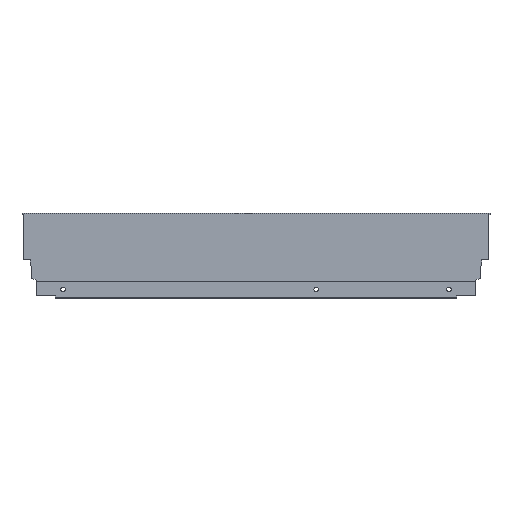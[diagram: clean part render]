
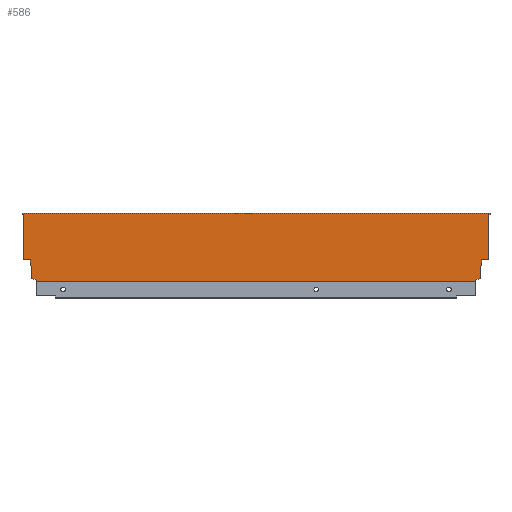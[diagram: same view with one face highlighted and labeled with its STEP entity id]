
A CAD part, top view. The second image highlights one B-rep face of the part: STEP entity #586.
In plain terms, the highlighted planar face has unit normal (0, 0, 1).
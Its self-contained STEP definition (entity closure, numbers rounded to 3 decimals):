
#54 = ORIENTED_EDGE ( 'NONE', *, *, #1593, .T. ) ;
#55 = ORIENTED_EDGE ( 'NONE', *, *, #1594, .T. ) ;
#56 = ORIENTED_EDGE ( 'NONE', *, *, #1583, .F. ) ;
#69 = ORIENTED_EDGE ( 'NONE', *, *, #1581, .F. ) ;
#73 = ORIENTED_EDGE ( 'NONE', *, *, #1595, .F. ) ;
#82 = ORIENTED_EDGE ( 'NONE', *, *, #1588, .F. ) ;
#89 = ORIENTED_EDGE ( 'NONE', *, *, #1599, .F. ) ;
#90 = ORIENTED_EDGE ( 'NONE', *, *, #1592, .F. ) ;
#91 = ORIENTED_EDGE ( 'NONE', *, *, #1476, .F. ) ;
#93 = ORIENTED_EDGE ( 'NONE', *, *, #1587, .F. ) ;
#100 = ORIENTED_EDGE ( 'NONE', *, *, #1586, .F. ) ;
#101 = ORIENTED_EDGE ( 'NONE', *, *, #1591, .F. ) ;
#102 = ORIENTED_EDGE ( 'NONE', *, *, #1590, .F. ) ;
#109 = ORIENTED_EDGE ( 'NONE', *, *, #1585, .F. ) ;
#116 = ORIENTED_EDGE ( 'NONE', *, *, #1582, .F. ) ;
#117 = ORIENTED_EDGE ( 'NONE', *, *, #1584, .F. ) ;
#120 = ORIENTED_EDGE ( 'NONE', *, *, #1589, .F. ) ;
#199 = EDGE_LOOP ( 'NONE', ( #102, #73, #55, #54, #90, #89, #82, #101, #100, #213, #117, #116, #120, #93, #109, #91, #56, #69 ) ) ;
#213 = ORIENTED_EDGE ( 'NONE', *, *, #1596, .T. ) ;
#269 = VECTOR ( 'NONE', #1117, 1000. ) ;
#270 = LINE ( 'NONE', #1116, #269 ) ;
#271 = VECTOR ( 'NONE', #1115, 1000. ) ;
#272 = LINE ( 'NONE', #1114, #271 ) ;
#274 = VECTOR ( 'NONE', #1113, 1000. ) ;
#275 = VECTOR ( 'NONE', #1111, 1000. ) ;
#276 = LINE ( 'NONE', #1110, #275 ) ;
#277 = VECTOR ( 'NONE', #1108, 1000. ) ;
#278 = LINE ( 'NONE', #1107, #277 ) ;
#279 = LINE ( 'NONE', #1123, #305 ) ;
#280 = VECTOR ( 'NONE', #1106, 1000. ) ;
#281 = VECTOR ( 'NONE', #1104, 1000. ) ;
#282 = LINE ( 'NONE', #1103, #281 ) ;
#283 = VECTOR ( 'NONE', #1102, 1000. ) ;
#284 = LINE ( 'NONE', #1101, #283 ) ;
#285 = VECTOR ( 'NONE', #1100, 1000. ) ;
#286 = LINE ( 'NONE', #1099, #285 ) ;
#287 = VECTOR ( 'NONE', #1098, 1000. ) ;
#288 = LINE ( 'NONE', #1097, #287 ) ;
#289 = VECTOR ( 'NONE', #1096, 1000. ) ;
#290 = LINE ( 'NONE', #1095, #289 ) ;
#291 = VECTOR ( 'NONE', #1094, 1000. ) ;
#292 = LINE ( 'NONE', #1093, #291 ) ;
#293 = VECTOR ( 'NONE', #1092, 1000. ) ;
#294 = LINE ( 'NONE', #1091, #293 ) ;
#295 = VECTOR ( 'NONE', #1090, 1000. ) ;
#296 = LINE ( 'NONE', #1089, #295 ) ;
#297 = VECTOR ( 'NONE', #1088, 1000. ) ;
#298 = LINE ( 'NONE', #1087, #297 ) ;
#299 = VECTOR ( 'NONE', #1086, 1000. ) ;
#300 = LINE ( 'NONE', #1085, #299 ) ;
#305 = VECTOR ( 'NONE', #1124, 1000. ) ;
#308 = LINE ( 'NONE', #1105, #274 ) ;
#333 = LINE ( 'NONE', #1079, #280 ) ;
#496 = VERTEX_POINT ( 'NONE', #592 ) ;
#500 = VERTEX_POINT ( 'NONE', #596 ) ;
#502 = VERTEX_POINT ( 'NONE', #598 ) ;
#503 = VERTEX_POINT ( 'NONE', #599 ) ;
#504 = VERTEX_POINT ( 'NONE', #600 ) ;
#505 = VERTEX_POINT ( 'NONE', #601 ) ;
#508 = VERTEX_POINT ( 'NONE', #604 ) ;
#510 = VERTEX_POINT ( 'NONE', #606 ) ;
#513 = VERTEX_POINT ( 'NONE', #609 ) ;
#515 = VERTEX_POINT ( 'NONE', #611 ) ;
#516 = VERTEX_POINT ( 'NONE', #612 ) ;
#517 = VERTEX_POINT ( 'NONE', #613 ) ;
#518 = VERTEX_POINT ( 'NONE', #614 ) ;
#520 = VERTEX_POINT ( 'NONE', #616 ) ;
#522 = VERTEX_POINT ( 'NONE', #618 ) ;
#523 = VERTEX_POINT ( 'NONE', #619 ) ;
#532 = VERTEX_POINT ( 'NONE', #628 ) ;
#535 = VERTEX_POINT ( 'NONE', #631 ) ;
#586 = ADVANCED_FACE ( 'NONE', ( #1338 ), #812, .T. ) ;
#592 = CARTESIAN_POINT ( 'NONE',  ( 0., 21.2, 7.5 ) ) ;
#596 = CARTESIAN_POINT ( 'NONE',  ( -13.004, 1.146, 7.5 ) ) ;
#598 = CARTESIAN_POINT ( 'NONE',  ( -465., 21.2, 7.5 ) ) ;
#599 = CARTESIAN_POINT ( 'NONE',  ( 1., 68., 7.5 ) ) ;
#600 = CARTESIAN_POINT ( 'NONE',  ( 1., 66.5, 7.5 ) ) ;
#601 = CARTESIAN_POINT ( 'NONE',  ( -465., 66.5, 7.5 ) ) ;
#604 = CARTESIAN_POINT ( 'NONE',  ( -8.9, 10.765, 7.5 ) ) ;
#606 = CARTESIAN_POINT ( 'NONE',  ( -451.996, 0., 7.5 ) ) ;
#609 = CARTESIAN_POINT ( 'NONE',  ( -456.1, 10.765, 7.5 ) ) ;
#611 = CARTESIAN_POINT ( 'NONE',  ( -466., 66.5, 7.5 ) ) ;
#612 = CARTESIAN_POINT ( 'NONE',  ( 0., 66.5, 7.5 ) ) ;
#613 = CARTESIAN_POINT ( 'NONE',  ( -7.06, 21.2, 7.5 ) ) ;
#614 = CARTESIAN_POINT ( 'NONE',  ( -13.004, 0., 7.5 ) ) ;
#616 = CARTESIAN_POINT ( 'NONE',  ( -8.9, 2.64, 7.5 ) ) ;
#618 = CARTESIAN_POINT ( 'NONE',  ( -456.1, 2.64, 7.5 ) ) ;
#619 = CARTESIAN_POINT ( 'NONE',  ( -451.996, 1.146, 7.5 ) ) ;
#628 = CARTESIAN_POINT ( 'NONE',  ( -466., 68., 7.5 ) ) ;
#631 = CARTESIAN_POINT ( 'NONE',  ( -457.94, 21.2, 7.5 ) ) ;
#812 = PLANE ( 'NONE',  #1661 ) ;
#815 = CARTESIAN_POINT ( 'NONE',  ( -465., 0., 7.5 ) ) ;
#821 = DIRECTION ( 'NONE',  ( 0., 0., 1. ) ) ;
#822 = DIRECTION ( 'NONE',  ( 1., 0., 0. ) ) ;
#857 = CARTESIAN_POINT ( 'NONE',  ( 0., 0., 7.5 ) ) ;
#868 = DIRECTION ( 'NONE',  ( 0., -1., 0. ) ) ;
#1079 = CARTESIAN_POINT ( 'NONE',  ( -456.1, 2.64, 7.5 ) ) ;
#1085 = CARTESIAN_POINT ( 'NONE',  ( 1., 68., 7.5 ) ) ;
#1086 = DIRECTION ( 'NONE',  ( 0., -1., 0. ) ) ;
#1087 = CARTESIAN_POINT ( 'NONE',  ( -8.9, 2.64, 7.5 ) ) ;
#1088 = DIRECTION ( 'NONE',  ( -0.94, -0.342, 0. ) ) ;
#1089 = CARTESIAN_POINT ( 'NONE',  ( 1., 66.5, 7.5 ) ) ;
#1090 = DIRECTION ( 'NONE',  ( -1., 0., 0. ) ) ;
#1091 = CARTESIAN_POINT ( 'NONE',  ( -13.004, 1.146, 7.5 ) ) ;
#1092 = DIRECTION ( 'NONE',  ( 0., -1., 0. ) ) ;
#1093 = CARTESIAN_POINT ( 'NONE',  ( 0., 21.2, 7.5 ) ) ;
#1094 = DIRECTION ( 'NONE',  ( -1., 0., 0. ) ) ;
#1095 = CARTESIAN_POINT ( 'NONE',  ( -451.996, 1.146, 7.5 ) ) ;
#1096 = DIRECTION ( 'NONE',  ( 0., 1., 0. ) ) ;
#1097 = CARTESIAN_POINT ( 'NONE',  ( -7.06, 21.2, 7.5 ) ) ;
#1098 = DIRECTION ( 'NONE',  ( -0.174, -0.985, 0. ) ) ;
#1099 = CARTESIAN_POINT ( 'NONE',  ( -456.1, 10.765, 7.5 ) ) ;
#1100 = DIRECTION ( 'NONE',  ( 0., 1., 0. ) ) ;
#1101 = CARTESIAN_POINT ( 'NONE',  ( -8.9, 10.765, 7.5 ) ) ;
#1102 = DIRECTION ( 'NONE',  ( 0., -1., 0. ) ) ;
#1103 = CARTESIAN_POINT ( 'NONE',  ( -465., 68., 7.5 ) ) ;
#1104 = DIRECTION ( 'NONE',  ( 1., 0., 0. ) ) ;
#1105 = CARTESIAN_POINT ( 'NONE',  ( -466., 66.5, 7.5 ) ) ;
#1106 = DIRECTION ( 'NONE',  ( -0.94, 0.342, 0. ) ) ;
#1107 = CARTESIAN_POINT ( 'NONE',  ( -470., 21.2, 7.5 ) ) ;
#1108 = DIRECTION ( 'NONE',  ( -1., 0., 0. ) ) ;
#1110 = CARTESIAN_POINT ( 'NONE',  ( -465., 0., 7.5 ) ) ;
#1111 = DIRECTION ( 'NONE',  ( 0., -1., 0. ) ) ;
#1113 = DIRECTION ( 'NONE',  ( 1., 0., 0. ) ) ;
#1114 = CARTESIAN_POINT ( 'NONE',  ( -466., 66.5, 7.5 ) ) ;
#1115 = DIRECTION ( 'NONE',  ( 0., 1., 0. ) ) ;
#1116 = CARTESIAN_POINT ( 'NONE',  ( -465., 0., 7.5 ) ) ;
#1117 = DIRECTION ( 'NONE',  ( 1., 0., 0. ) ) ;
#1123 = CARTESIAN_POINT ( 'NONE',  ( -457.94, 21.2, 7.5 ) ) ;
#1124 = DIRECTION ( 'NONE',  ( -0.174, 0.985, 0. ) ) ;
#1324 = LINE ( 'NONE', #857, #1331 ) ;
#1331 = VECTOR ( 'NONE', #868, 1000. ) ;
#1338 = FACE_OUTER_BOUND ( 'NONE', #199, .T. ) ;
#1476 = EDGE_CURVE ( 'NONE', #516, #496, #1324, .T. ) ;
#1581 = EDGE_CURVE ( 'NONE', #503, #504, #300, .T. ) ;
#1582 = EDGE_CURVE ( 'NONE', #520, #500, #298, .T. ) ;
#1583 = EDGE_CURVE ( 'NONE', #504, #516, #296, .T. ) ;
#1584 = EDGE_CURVE ( 'NONE', #500, #518, #294, .T. ) ;
#1585 = EDGE_CURVE ( 'NONE', #496, #517, #292, .T. ) ;
#1586 = EDGE_CURVE ( 'NONE', #510, #523, #290, .T. ) ;
#1587 = EDGE_CURVE ( 'NONE', #517, #508, #288, .T. ) ;
#1588 = EDGE_CURVE ( 'NONE', #522, #513, #286, .T. ) ;
#1589 = EDGE_CURVE ( 'NONE', #508, #520, #284, .T. ) ;
#1590 = EDGE_CURVE ( 'NONE', #532, #503, #282, .T. ) ;
#1591 = EDGE_CURVE ( 'NONE', #523, #522, #333, .T. ) ;
#1592 = EDGE_CURVE ( 'NONE', #535, #502, #278, .T. ) ;
#1593 = EDGE_CURVE ( 'NONE', #505, #502, #276, .T. ) ;
#1594 = EDGE_CURVE ( 'NONE', #515, #505, #308, .T. ) ;
#1595 = EDGE_CURVE ( 'NONE', #515, #532, #272, .T. ) ;
#1596 = EDGE_CURVE ( 'NONE', #510, #518, #270, .T. ) ;
#1599 = EDGE_CURVE ( 'NONE', #513, #535, #279, .T. ) ;
#1661 = AXIS2_PLACEMENT_3D ( 'NONE', #815, #821, #822 ) ;
